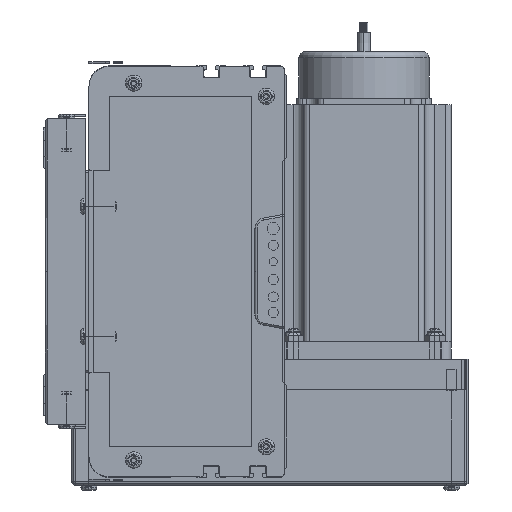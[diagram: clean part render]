
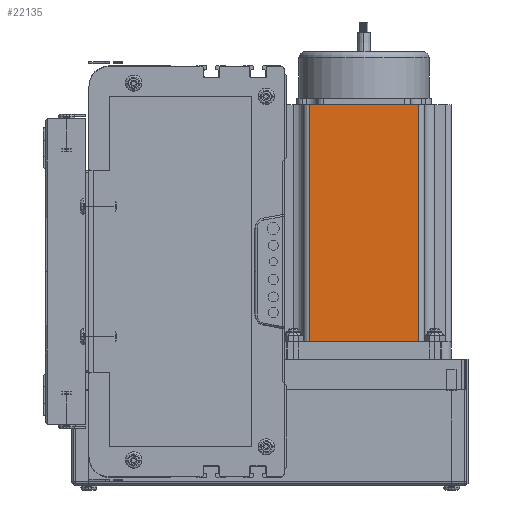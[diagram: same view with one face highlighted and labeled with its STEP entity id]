
A CAD part, left-side view. The second image highlights one B-rep face of the part: STEP entity #22135.
In plain terms, the highlighted planar face has unit normal (-1, 0, 0) as drawn and (0, -1, 0) by its records, which use the part's own axes.
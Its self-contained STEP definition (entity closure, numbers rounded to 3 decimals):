
#20323 = ORIENTED_EDGE ( 'NONE', *, *, #23442, .T. ) ;
#22135 = ADVANCED_FACE ( 'NONE', ( #26110 ), #79819, .F. ) ;
#23234 = ORIENTED_EDGE ( 'NONE', *, *, #114031, .T. ) ;
#23305 = EDGE_LOOP ( 'NONE', ( #23234, #116018, #116053, #20323 ) ) ;
#23339 = VERTEX_POINT ( 'NONE', #26633 ) ;
#23442 = EDGE_CURVE ( 'NONE', #23339, #116055, #27361, .T. ) ;
#26110 = FACE_OUTER_BOUND ( 'NONE', #23305, .T. ) ;
#26633 = CARTESIAN_POINT ( 'NONE',  ( 16.16, 0., 116.5 ) ) ;
#27359 = CARTESIAN_POINT ( 'NONE',  ( 16.16, 0., 116.5 ) ) ;
#27361 = LINE ( 'NONE', #27359, #27474 ) ;
#27473 = DIRECTION ( 'NONE',  ( 0., 0., -1. ) ) ;
#27474 = VECTOR ( 'NONE', #27473, 1000. ) ;
#79814 = CARTESIAN_POINT ( 'NONE',  ( 0., 0., 116.5 ) ) ;
#79819 = PLANE ( 'NONE',  #79911 ) ;
#79823 = DIRECTION ( 'NONE',  ( 0., 1., 0. ) ) ;
#79839 = DIRECTION ( 'NONE',  ( 0., 0., 1. ) ) ;
#79911 = AXIS2_PLACEMENT_3D ( 'NONE', #79814, #79823, #79839 ) ;
#96207 = DIRECTION ( 'NONE',  ( 1., 0., 0. ) ) ;
#96208 = VECTOR ( 'NONE', #96207, 1000. ) ;
#96212 = CARTESIAN_POINT ( 'NONE',  ( 0., 0., 0. ) ) ;
#96213 = LINE ( 'NONE', #96212, #96208 ) ;
#96287 = CARTESIAN_POINT ( 'NONE',  ( 69.74, 0., 116.5 ) ) ;
#114031 = EDGE_CURVE ( 'NONE', #116055, #116010, #96213, .T. ) ;
#114061 = VERTEX_POINT ( 'NONE', #96287 ) ;
#116001 = EDGE_CURVE ( 'NONE', #23339, #114061, #122967, .T. ) ;
#116010 = VERTEX_POINT ( 'NONE', #122933 ) ;
#116018 = ORIENTED_EDGE ( 'NONE', *, *, #116019, .T. ) ;
#116019 = EDGE_CURVE ( 'NONE', #116010, #114061, #123006, .T. ) ;
#116053 = ORIENTED_EDGE ( 'NONE', *, *, #116001, .F. ) ;
#116055 = VERTEX_POINT ( 'NONE', #122992 ) ;
#122933 = CARTESIAN_POINT ( 'NONE',  ( 69.74, 0., 0. ) ) ;
#122957 = DIRECTION ( 'NONE',  ( 1., 0., 0. ) ) ;
#122958 = VECTOR ( 'NONE', #122957, 1000. ) ;
#122959 = CARTESIAN_POINT ( 'NONE',  ( 0., 0., 116.5 ) ) ;
#122967 = LINE ( 'NONE', #122959, #122958 ) ;
#122990 = DIRECTION ( 'NONE',  ( 0., 0., 1. ) ) ;
#122991 = VECTOR ( 'NONE', #122990, 1000. ) ;
#122992 = CARTESIAN_POINT ( 'NONE',  ( 16.16, 0., 0. ) ) ;
#123005 = CARTESIAN_POINT ( 'NONE',  ( 69.74, 0., 116.5 ) ) ;
#123006 = LINE ( 'NONE', #123005, #122991 ) ;
